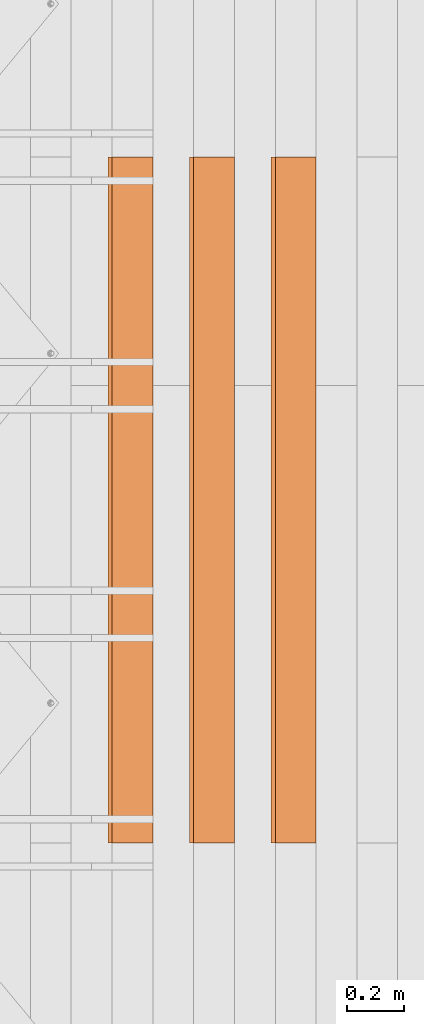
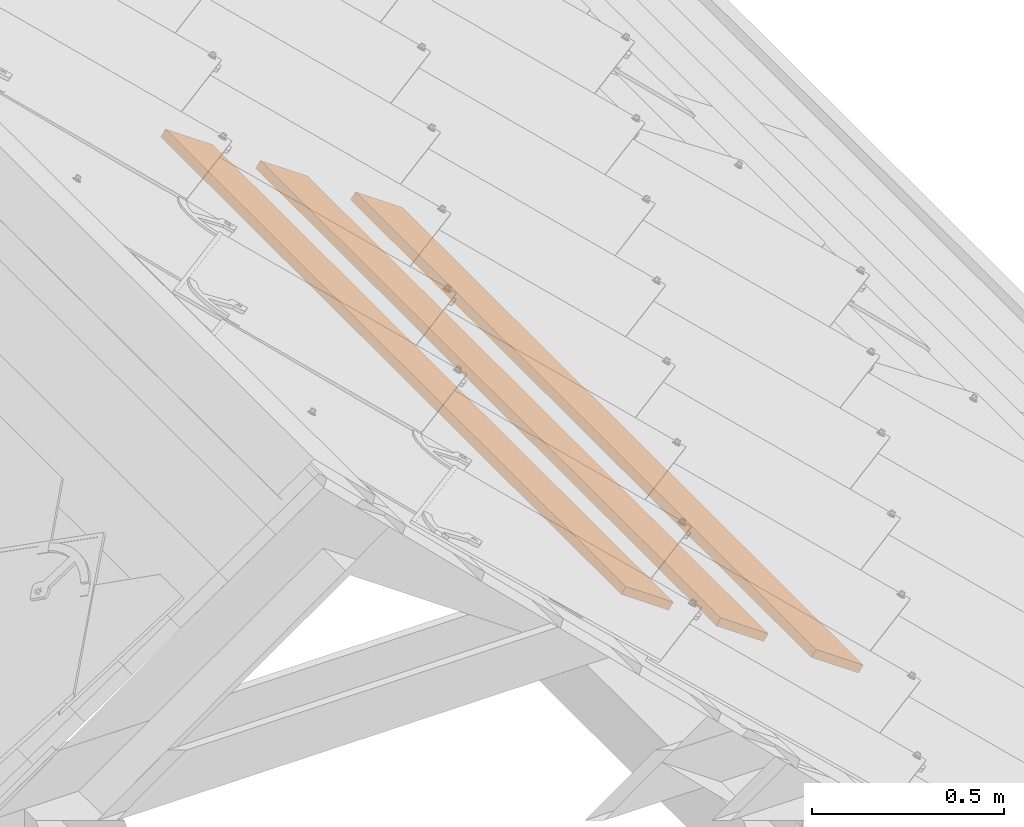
# One storey, part 44 of 151: 3 proxies, 1 element without a shape of its own.
"""IFC2X3 building model written with IfcOpenShell, lengths in millimetres."""

from ifc_helpers import new_model, entity, si_unit, converted_unit, derived_unit, direction, frame, frame_2d, origin, place, context, subcontext, project, spatial, rectangle, extrude, source, transform, mapped, material, type_object, type_shapes, element, aggregate, save


model = new_model("IFC2X3")

# Units and contexts
model_context = context("Model", 3, precision=0.01, world=origin(), true_north=direction((6.12303176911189e-17, 1.0)))
body_context = subcontext(model_context, "Body", "Model", "MODEL_VIEW")
ifc_project = project(units=[si_unit("LENGTHUNIT", "METRE", prefix="MILLI"), si_unit("AREAUNIT", "SQUARE_METRE"), si_unit("VOLUMEUNIT", "CUBIC_METRE"), converted_unit("PLANEANGLEUNIT", "DEGREE", entity("IfcRatioMeasure", 0.0174532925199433), si_unit("PLANEANGLEUNIT", "RADIAN"), dimensions=[0, 0, 0, 0, 0, 0, 0]), si_unit("MASSUNIT", "GRAM", prefix="KILO"), derived_unit("MASSDENSITYUNIT", [(si_unit("MASSUNIT", "GRAM", prefix="KILO"), 1), (si_unit("LENGTHUNIT", "METRE"), -3)]), si_unit("TIMEUNIT", "SECOND"), si_unit("FREQUENCYUNIT", "HERTZ"), si_unit("THERMODYNAMICTEMPERATUREUNIT", "DEGREE_CELSIUS"), derived_unit("THERMALTRANSMITTANCEUNIT", [(si_unit("MASSUNIT", "GRAM", prefix="KILO"), 1), (si_unit("THERMODYNAMICTEMPERATUREUNIT", "KELVIN"), -1), (si_unit("TIMEUNIT", "SECOND"), -3)]), derived_unit("VOLUMETRICFLOWRATEUNIT", [(si_unit("LENGTHUNIT", "METRE"), 3), (si_unit("TIMEUNIT", "SECOND"), -1)]), si_unit("ELECTRICCURRENTUNIT", "AMPERE"), si_unit("ELECTRICVOLTAGEUNIT", "VOLT"), si_unit("POWERUNIT", "WATT"), si_unit("FORCEUNIT", "NEWTON", prefix="KILO"), si_unit("ILLUMINANCEUNIT", "LUX"), si_unit("LUMINOUSFLUXUNIT", "LUMEN"), si_unit("LUMINOUSINTENSITYUNIT", "CANDELA"), derived_unit("USERDEFINED", [(si_unit("MASSUNIT", "GRAM", prefix="KILO"), -1), (si_unit("LENGTHUNIT", "METRE"), -2), (si_unit("TIMEUNIT", "SECOND"), 3), (si_unit("LUMINOUSFLUXUNIT", "LUMEN"), 1)]), derived_unit("LINEARVELOCITYUNIT", [(si_unit("LENGTHUNIT", "METRE"), 1), (si_unit("TIMEUNIT", "SECOND"), -1)]), si_unit("PRESSUREUNIT", "PASCAL"), derived_unit("USERDEFINED", [(si_unit("LENGTHUNIT", "METRE"), -2), (si_unit("MASSUNIT", "GRAM", prefix="KILO"), 1), (si_unit("TIMEUNIT", "SECOND"), -2)])], contexts=[model_context])

# Site, building, storey
site_placement = place(None, origin())
site = spatial("IfcSite", under=ifc_project, at=site_placement, Name="Default", CompositionType="ELEMENT")
building_placement = place(site_placement, origin())
building = spatial("IfcBuilding", under=site, at=building_placement, CompositionType="ELEMENT")
storey_placement = place(building_placement, origin())
storey = spatial("IfcBuildingStorey", under=building, at=storey_placement, Name="Level 1", CompositionType="ELEMENT", Elevation=0.0)

# Assembly, proxies
assembly_placement = place(storey_placement, origin())
assembly = element("IfcElementAssembly", 1, at=assembly_placement, inside=storey, Name="Structural Framing Assembly:Roof Construction Assembly", ObjectType="Structural Framing Assembly:Roof Construction Assembly", AssemblyPlace="NOTDEFINED", PredefinedType="USERDEFINED")
ifc_material = material(Name="Wood - Generic - Wood For Showcase")
building_element_proxy_type_1 = type_object("IfcBuildingElementProxyType", Name="Structural Framing 15", PredefinedType="NOTDEFINED", material=ifc_material)
shared_shape_1 = source(origin(), body_context, "Body", "SweptSolid", [
    extrude(rectangle(XDim=24.9999999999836, YDim=174.344679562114, at=frame_2d((2.97539770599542e-13, -4.2632564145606e-14), x_axis=(1.0, 0.0))), frame((1285.35601305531, 1525.55080214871, 2760.23940055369), z_axis=(0.0, 1.0, 0.0), x_axis=(0.573576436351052, 0.0, 0.819152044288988)), (0.0, 0.0, 1.0), 2400.0),
])
type_shapes(building_element_proxy_type_1, [shared_shape_1])
proxy_1_placement = place(assembly_placement, frame((914.376675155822, -4870.0, -600.0)))
proxy_1 = element("IfcBuildingElementProxy", 2, at=proxy_1_placement, type_object=building_element_proxy_type_1, material=ifc_material, Name="Structural Framing 187:Structural Framing 15", ObjectType="Structural Framing 187:Structural Framing 15", context=body_context, shape_type="MappedRepresentation", body=[
    mapped(shared_shape_1, transform((0.0, 0.0, 0.0), scale=1.0)),
])
building_element_proxy_type_2 = type_object("IfcBuildingElementProxyType", Name="Structural Framing 15", PredefinedType="NOTDEFINED", material=ifc_material)
shared_shape_2 = source(origin(), body_context, "Body", "SweptSolid", [
    extrude(rectangle(XDim=24.9999999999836, YDim=174.344679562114, at=frame_2d((2.97539770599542e-13, -4.2632564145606e-14), x_axis=(1.0, 0.0))), frame((1285.35601305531, 1525.55080214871, 2760.23940055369), z_axis=(0.0, 1.0, 0.0), x_axis=(0.573576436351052, 0.0, 0.819152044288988)), (0.0, 0.0, 1.0), 2400.0),
])
type_shapes(building_element_proxy_type_2, [shared_shape_2])
proxy_2_placement = place(assembly_placement, frame((1200.00627650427, -4870.0, -800.0)))
proxy_2 = element("IfcBuildingElementProxy", 3, at=proxy_2_placement, type_object=building_element_proxy_type_2, material=ifc_material, Name="Structural Framing 197:Structural Framing 15", ObjectType="Structural Framing 197:Structural Framing 15", context=body_context, shape_type="MappedRepresentation", body=[
    mapped(shared_shape_2, transform((0.0, 0.0, 0.0), scale=1.0)),
])
building_element_proxy_type_3 = type_object("IfcBuildingElementProxyType", Name="Structural Framing 15", PredefinedType="NOTDEFINED", material=ifc_material)
shared_shape_3 = source(origin(), body_context, "Body", "SweptSolid", [
    extrude(rectangle(XDim=24.9999999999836, YDim=174.344679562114, at=frame_2d((2.97539770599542e-13, -4.2632564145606e-14), x_axis=(1.0, 0.0))), frame((1285.35601305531, 1525.55080214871, 2760.23940055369), z_axis=(0.0, 1.0, 0.0), x_axis=(0.573576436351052, 0.0, 0.819152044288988)), (0.0, 0.0, 1.0), 2400.0),
])
type_shapes(building_element_proxy_type_3, [shared_shape_3])
proxy_3_placement = place(assembly_placement, frame((1485.63587785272, -4870.0, -1000.0)))
proxy_3 = element("IfcBuildingElementProxy", 4, at=proxy_3_placement, type_object=building_element_proxy_type_3, material=ifc_material, Name="Structural Framing 207:Structural Framing 15", ObjectType="Structural Framing 207:Structural Framing 15", context=body_context, shape_type="MappedRepresentation", body=[
    mapped(shared_shape_3, transform((0.0, 0.0, 0.0), scale=1.0)),
])
aggregate(assembly, [proxy_1, proxy_2, proxy_3])

save(model, "model.ifc")
